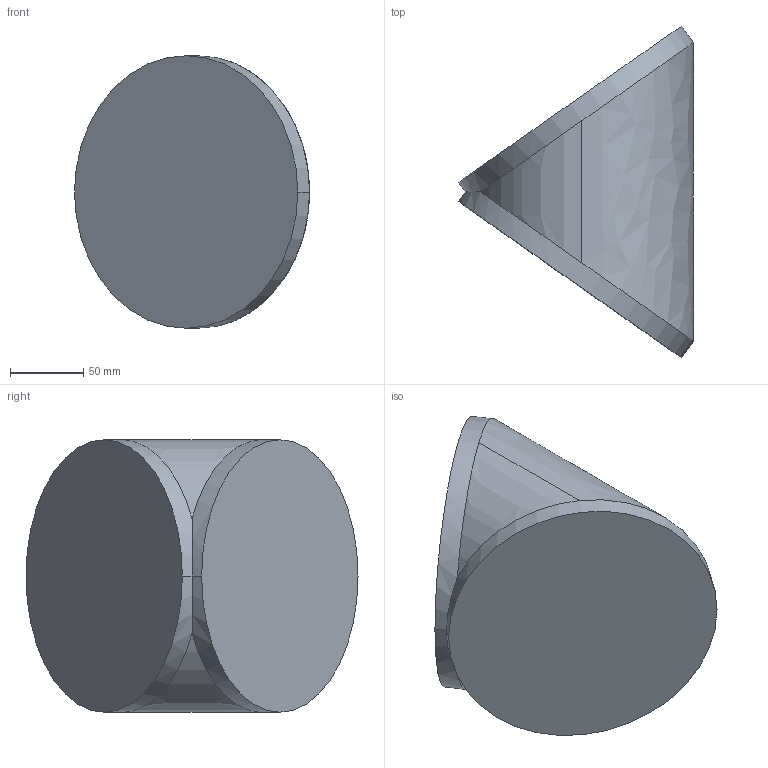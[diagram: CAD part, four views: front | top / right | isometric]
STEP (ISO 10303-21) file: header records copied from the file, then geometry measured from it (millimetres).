
FILE_DESCRIPTION (( 'STEP AP214' ), '1' );
FILE_NAME ('IRB5500_12_T00F71B41V31H51_rev1_6.step', '2006-09-01T12:43:22', ( 'Jonas Eriksson' ), ( '' ), 'SwSTEP 2.0', 'SolidWorks 2004334', '' );
FILE_SCHEMA (( 'AUTOMOTIVE_DESIGN' ));
Length unit declared in the file: millimetre
Products named in the file (1): IRB5500_12_T00F71B41V31H51_rev1_6
Bounding box: 160.39 x 226.56 x 186 mm (x, y, z)
Volume: 2917679.6 mm3; surface area: 122235.6 mm2
Topology: 1 solids, 1 shells, 9 faces, 20 edges, 13 vertices
Faces by surface type: cylinder 4, bspline 3, plane 2
Entity records: 413 total; most frequent: CARTESIAN_POINT 94, DIRECTION 44, ORIENTED_EDGE 40, EDGE_CURVE 20, AXIS2_PLACEMENT_3D 19, VERTEX_POINT 13, CIRCLE 12, UNCERTAINTY_MEASURE_WITH_UNIT 11
